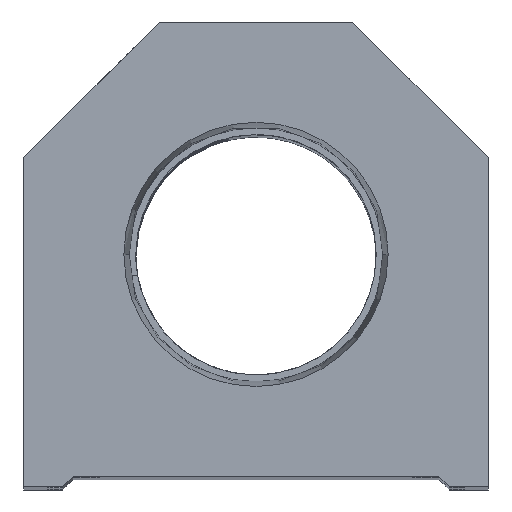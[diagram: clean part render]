
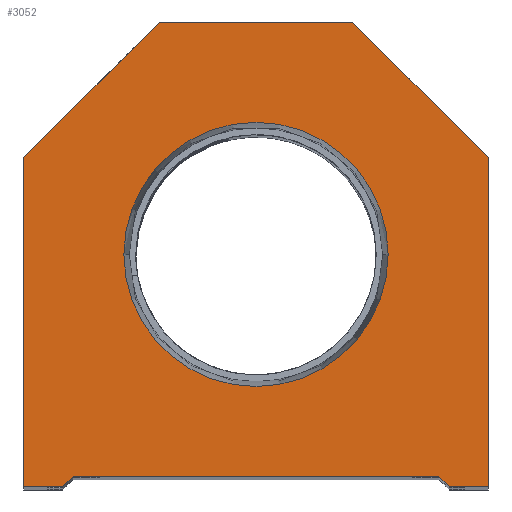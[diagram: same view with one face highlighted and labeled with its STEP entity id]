
A CAD part, top view. The second image highlights one B-rep face of the part: STEP entity #3052.
In plain terms, the highlighted planar face has unit normal (0, 0, 1).
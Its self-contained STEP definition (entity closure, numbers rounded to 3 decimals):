
#28 = DIRECTION ( 'NONE',  ( 0.707, 0.707, 0. ) ) ;
#42 = DIRECTION ( 'NONE',  ( -0.707, -0.707, 0. ) ) ;
#300 = VECTOR ( 'NONE', #3528, 1000. ) ;
#446 = CARTESIAN_POINT ( 'NONE',  ( -22.25, 0., 0. ) ) ;
#486 = CARTESIAN_POINT ( 'NONE',  ( 17.5, 1., 0. ) ) ;
#552 = EDGE_CURVE ( 'NONE', #1109, #2355, #12833, .T. ) ;
#918 = VECTOR ( 'NONE', #1930, 1000. ) ;
#924 = EDGE_LOOP ( 'NONE', ( #11221, #8685 ) ) ;
#1109 = VERTEX_POINT ( 'NONE', #486 ) ;
#1143 = CARTESIAN_POINT ( 'NONE',  ( 18.5, 0., 0. ) ) ;
#1152 = DIRECTION ( 'NONE',  ( 1., 0., 0. ) ) ;
#1840 = CIRCLE ( 'NONE', #12489, 12.647 ) ;
#1900 = LINE ( 'NONE', #13007, #4647 ) ;
#1930 = DIRECTION ( 'NONE',  ( 1., 0., 0. ) ) ;
#2030 = ORIENTED_EDGE ( 'NONE', *, *, #10924, .T. ) ;
#2071 = VECTOR ( 'NONE', #42, 1000. ) ;
#2142 = CARTESIAN_POINT ( 'NONE',  ( 0., 22.25, 0. ) ) ;
#2168 = CARTESIAN_POINT ( 'NONE',  ( -17.5, 1., 0. ) ) ;
#2213 = CARTESIAN_POINT ( 'NONE',  ( -12.647, 22.25, 0. ) ) ;
#2355 = VERTEX_POINT ( 'NONE', #1143 ) ;
#2386 = VECTOR ( 'NONE', #1152, 1000. ) ;
#2490 = AXIS2_PLACEMENT_3D ( 'NONE', #5396, #11858, #6415 ) ;
#2564 = VECTOR ( 'NONE', #2748, 1000. ) ;
#2748 = DIRECTION ( 'NONE',  ( 0.707, -0.707, 0. ) ) ;
#2759 = VECTOR ( 'NONE', #6106, 1000. ) ;
#2916 = CARTESIAN_POINT ( 'NONE',  ( -18.5, 0., 0. ) ) ;
#3052 = ADVANCED_FACE ( 'NONE', ( #7287, #9662 ), #7423, .T. ) ;
#3202 = CARTESIAN_POINT ( 'NONE',  ( 22.25, 0., 0. ) ) ;
#3234 = CARTESIAN_POINT ( 'NONE',  ( -17.5, 0., 0. ) ) ;
#3268 = EDGE_LOOP ( 'NONE', ( #14272, #2030, #11524, #11697, #4601, #7593, #6155, #14058, #4637, #12163 ) ) ;
#3378 = CARTESIAN_POINT ( 'NONE',  ( 17.5, 0., 0. ) ) ;
#3528 = DIRECTION ( 'NONE',  ( -0.707, 0.707, 0. ) ) ;
#3539 = VERTEX_POINT ( 'NONE', #2916 ) ;
#3703 = VERTEX_POINT ( 'NONE', #12252 ) ;
#3779 = VECTOR ( 'NONE', #7874, 1000. ) ;
#4601 = ORIENTED_EDGE ( 'NONE', *, *, #6829, .T. ) ;
#4637 = ORIENTED_EDGE ( 'NONE', *, *, #8918, .T. ) ;
#4647 = VECTOR ( 'NONE', #7339, 1000. ) ;
#5396 = CARTESIAN_POINT ( 'NONE',  ( 0., 0., 0. ) ) ;
#5422 = EDGE_CURVE ( 'NONE', #11125, #9716, #11459, .T. ) ;
#5491 = CARTESIAN_POINT ( 'NONE',  ( -9.25, 9.25, 0. ) ) ;
#5550 = VERTEX_POINT ( 'NONE', #446 ) ;
#5824 = CIRCLE ( 'NONE', #7447, 12.647 ) ;
#5896 = VERTEX_POINT ( 'NONE', #9363 ) ;
#6043 = EDGE_CURVE ( 'NONE', #13389, #11796, #7552, .T. ) ;
#6106 = DIRECTION ( 'NONE',  ( -1., 0., 0. ) ) ;
#6155 = ORIENTED_EDGE ( 'NONE', *, *, #12344, .T. ) ;
#6415 = DIRECTION ( 'NONE',  ( 1., 0., 0. ) ) ;
#6810 = VERTEX_POINT ( 'NONE', #2213 ) ;
#6829 = EDGE_CURVE ( 'NONE', #2355, #13389, #8593, .T. ) ;
#7001 = EDGE_CURVE ( 'NONE', #3703, #5550, #1900, .T. ) ;
#7287 = FACE_BOUND ( 'NONE', #924, .T. ) ;
#7339 = DIRECTION ( 'NONE',  ( 0., -1., 0. ) ) ;
#7423 = PLANE ( 'NONE',  #2490 ) ;
#7447 = AXIS2_PLACEMENT_3D ( 'NONE', #8135, #13883, #13730 ) ;
#7519 = DIRECTION ( 'NONE',  ( 0., 0., 1. ) ) ;
#7537 = CARTESIAN_POINT ( 'NONE',  ( -22.25, 31.5, 0. ) ) ;
#7552 = LINE ( 'NONE', #12189, #14126 ) ;
#7593 = ORIENTED_EDGE ( 'NONE', *, *, #6043, .T. ) ;
#7811 = EDGE_CURVE ( 'NONE', #6810, #11072, #1840, .T. ) ;
#7874 = DIRECTION ( 'NONE',  ( 1., 0., 0. ) ) ;
#8084 = CARTESIAN_POINT ( 'NONE',  ( 22.25, 31.5, 0. ) ) ;
#8135 = CARTESIAN_POINT ( 'NONE',  ( 0., 22.25, 0. ) ) ;
#8268 = CARTESIAN_POINT ( 'NONE',  ( 9.25, 44.5, 0. ) ) ;
#8593 = LINE ( 'NONE', #3378, #918 ) ;
#8684 = LINE ( 'NONE', #7537, #2071 ) ;
#8685 = ORIENTED_EDGE ( 'NONE', *, *, #7811, .F. ) ;
#8855 = VECTOR ( 'NONE', #28, 1000. ) ;
#8918 = EDGE_CURVE ( 'NONE', #9716, #3703, #8684, .T. ) ;
#9171 = LINE ( 'NONE', #8084, #300 ) ;
#9336 = EDGE_CURVE ( 'NONE', #11072, #6810, #5824, .T. ) ;
#9363 = CARTESIAN_POINT ( 'NONE',  ( -17.5, 1., 0. ) ) ;
#9662 = FACE_OUTER_BOUND ( 'NONE', #3268, .T. ) ;
#9716 = VERTEX_POINT ( 'NONE', #10435 ) ;
#9836 = LINE ( 'NONE', #5491, #8855 ) ;
#10186 = CARTESIAN_POINT ( 'NONE',  ( 9.25, 44.5, 0. ) ) ;
#10435 = CARTESIAN_POINT ( 'NONE',  ( -9.25, 44.5, 0. ) ) ;
#10716 = EDGE_CURVE ( 'NONE', #5896, #1109, #13198, .T. ) ;
#10898 = CARTESIAN_POINT ( 'NONE',  ( 22.25, 31.5, 0. ) ) ;
#10924 = EDGE_CURVE ( 'NONE', #3539, #5896, #9836, .T. ) ;
#10982 = DIRECTION ( 'NONE',  ( 1., 0., 0. ) ) ;
#11030 = EDGE_CURVE ( 'NONE', #5550, #3539, #13110, .T. ) ;
#11072 = VERTEX_POINT ( 'NONE', #12521 ) ;
#11125 = VERTEX_POINT ( 'NONE', #10186 ) ;
#11221 = ORIENTED_EDGE ( 'NONE', *, *, #9336, .F. ) ;
#11459 = LINE ( 'NONE', #8268, #2759 ) ;
#11524 = ORIENTED_EDGE ( 'NONE', *, *, #10716, .T. ) ;
#11697 = ORIENTED_EDGE ( 'NONE', *, *, #552, .T. ) ;
#11796 = VERTEX_POINT ( 'NONE', #10898 ) ;
#11858 = DIRECTION ( 'NONE',  ( 0., 0., 1. ) ) ;
#12163 = ORIENTED_EDGE ( 'NONE', *, *, #7001, .T. ) ;
#12189 = CARTESIAN_POINT ( 'NONE',  ( 22.25, 0., 0. ) ) ;
#12252 = CARTESIAN_POINT ( 'NONE',  ( -22.25, 31.5, 0. ) ) ;
#12344 = EDGE_CURVE ( 'NONE', #11796, #11125, #9171, .T. ) ;
#12489 = AXIS2_PLACEMENT_3D ( 'NONE', #2142, #7519, #10982 ) ;
#12521 = CARTESIAN_POINT ( 'NONE',  ( 12.647, 22.25, 0. ) ) ;
#12687 = CARTESIAN_POINT ( 'NONE',  ( 9.25, 9.25, 0. ) ) ;
#12833 = LINE ( 'NONE', #12687, #2564 ) ;
#13007 = CARTESIAN_POINT ( 'NONE',  ( -22.25, 0., 0. ) ) ;
#13110 = LINE ( 'NONE', #3234, #3779 ) ;
#13138 = DIRECTION ( 'NONE',  ( 0., 1., 0. ) ) ;
#13198 = LINE ( 'NONE', #2168, #2386 ) ;
#13389 = VERTEX_POINT ( 'NONE', #3202 ) ;
#13730 = DIRECTION ( 'NONE',  ( 1., 0., 0. ) ) ;
#13883 = DIRECTION ( 'NONE',  ( 0., 0., 1. ) ) ;
#14058 = ORIENTED_EDGE ( 'NONE', *, *, #5422, .T. ) ;
#14126 = VECTOR ( 'NONE', #13138, 1000. ) ;
#14272 = ORIENTED_EDGE ( 'NONE', *, *, #11030, .T. ) ;
